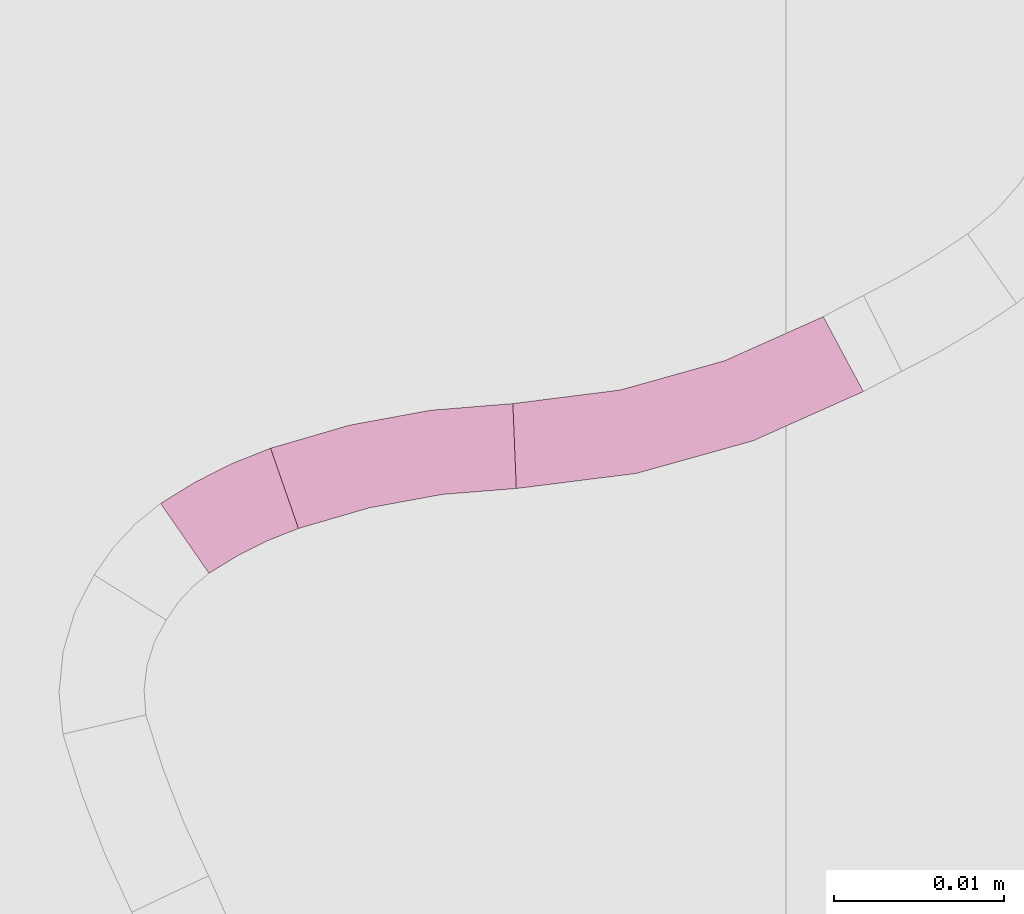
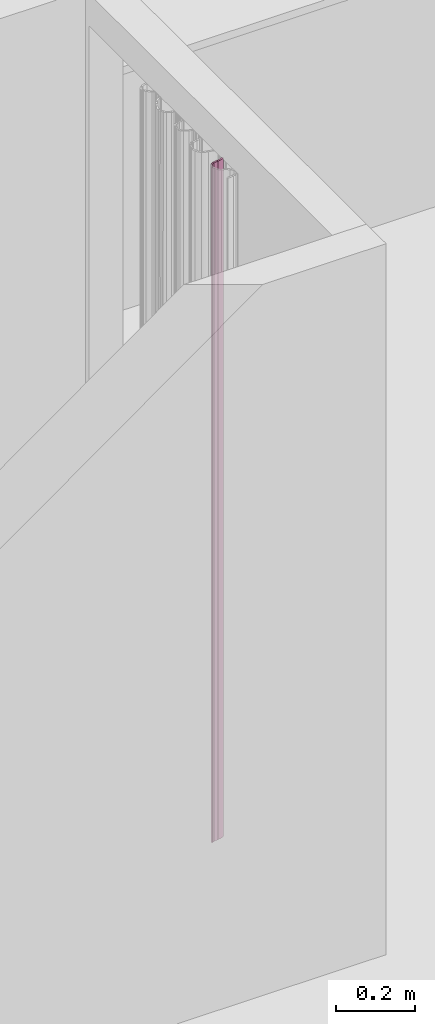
# One storey, part 289 of 418: 3 furnishings.
"""IFC2X3 building model written with IfcOpenShell, lengths in millimetres."""

from ifc_helpers import new_model, entity, si_unit, converted_unit, derived_unit, money_unit, point, direction, frame, frame_2d, origin_with_axes, place, context, subcontext, project, spatial, polyline, circle_curve, parameter, trimmed, segment, composite_curve, outline, extrude, material, type_object, element, save


model = new_model("IFC2X3")

# Units and contexts
model_context = context("Model", 3, precision=0.01, world=origin_with_axes(), true_north=direction((0.0, 1.0)))
body_context = subcontext(model_context, "Body", "Model", "MODEL_VIEW")
ifc_project = project(units=[si_unit("LENGTHUNIT", "METRE", prefix="MILLI"), si_unit("AREAUNIT", "SQUARE_METRE"), si_unit("VOLUMEUNIT", "CUBIC_METRE"), converted_unit("PLANEANGLEUNIT", "DEGREE", entity("IfcPlaneAngleMeasure", 0.0174532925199), si_unit("PLANEANGLEUNIT", "RADIAN"), dimensions=[0, 0, 0, 0, 0, 0, 0]), si_unit("SOLIDANGLEUNIT", "STERADIAN"), money_unit("EUR"), converted_unit("TIMEUNIT", "Year", entity("IfcTimeMeasure", 31556926.0), si_unit("TIMEUNIT", "SECOND"), dimensions=[0, 0, 1, 0, 0, 0, 0]), si_unit("MASSUNIT", "GRAM", prefix="KILO"), si_unit("THERMODYNAMICTEMPERATUREUNIT", "DEGREE_CELSIUS"), si_unit("LUMINOUSINTENSITYUNIT", "LUMEN"), si_unit("ENERGYUNIT", "JOULE", prefix="MEGA"), derived_unit("THERMALCONDUCTANCEUNIT", [(si_unit("POWERUNIT", "WATT"), 1), (si_unit("LENGTHUNIT", "METRE"), -1), (si_unit("THERMODYNAMICTEMPERATUREUNIT", "KELVIN"), -1)]), derived_unit("SPECIFICHEATCAPACITYUNIT", [(si_unit("ENERGYUNIT", "JOULE"), 1), (si_unit("MASSUNIT", "GRAM", prefix="KILO"), -1), (si_unit("THERMODYNAMICTEMPERATUREUNIT", "KELVIN"), -1)]), derived_unit("MASSDENSITYUNIT", [(si_unit("MASSUNIT", "GRAM", prefix="KILO"), 1), (si_unit("VOLUMEUNIT", "CUBIC_METRE"), -1)])], contexts=[model_context])

# Site, building, storey
site_placement = place(None, origin_with_axes())
site = spatial("IfcSite", under=ifc_project, at=site_placement, Name="Paldiski mnt 245/1, Tallinn, Harjumaa", CompositionType="COMPLEX")
building_placement = place(site_placement, origin_with_axes())
building = spatial("IfcBuilding", under=site, at=building_placement, Name="RKAS Hoone üldnimetus (kasutust iseloomustav) -> IFC Project Manager -> SOLIBRI", CompositionType="ELEMENT")
storey_placement = place(building_placement, origin_with_axes())
storey = spatial("IfcBuildingStorey", under=building, at=storey_placement, Name="Esimene korrus", CompositionType="ELEMENT", Elevation=0.0)

# Furnishings
ifc_material = material(Name="KON-00_GENEERILINE - KONSTRUKTSIOON")
furniture_type = type_object("IfcFurnitureType", Name="KON-00_GENEERILINE - KONSTRUKTSIOON 5", AssemblyPlace="NOTDEFINED")
furnishing_1_placement = place(storey_placement, frame((-44052.7183751, -2254.90243296, 0.0), z_axis=(0.0, 0.0, 1.0), x_axis=(-0.944471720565, -0.328592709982, 0.0)))
element("IfcFurnishingElement", 1, at=furnishing_1_placement, inside=storey, type_object=furniture_type, material=ifc_material, Name="SS-55", context=body_context, shape_type="SweptSolid", body=[
    extrude(outline(composite_curve([segment(trimmed(circle_curve(frame_2d((0.0, 27.7953443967), x_axis=(0.0, -1.0)), 27.7953443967), [point((-1.64845914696e-09, 0.0)), parameter(0.0)], [point((7.17907738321, 0.943118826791)), parameter(14.9682323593)], True, "CARTESIAN"), True, "CONTINUOUS"), segment(polyline([(7.17907738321, 0.943118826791), (5.84343457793, 5.76168835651)]), True, "CONTINUOUS"), segment(trimmed(circle_curve(frame_2d((0.0, 27.7953443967), x_axis=(5.2770137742e-05, -0.999999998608)), 22.7953443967), [point((5.84343457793, 5.76168835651)), parameter(14.8501750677)], [point((0.0012029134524, 5.00000003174)), parameter(0.0)], False, "CARTESIAN"), True, "CONTINUOUS"), segment(polyline([(0.0012029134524, 5.00000003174), (-1.64845914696e-09, 0.0)]), True, "CONTINUOUS")], self_intersect=False)), origin_with_axes(), (0.0, 0.0, 1.0), 2100.0),
])
furnishing_2_placement = place(storey_placement, frame((-44038.4663853, -2252.278624, 0.0), z_axis=(0.0, 0.0, 1.0), x_axis=(-0.999555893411, -0.0297995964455, 0.0)))
element("IfcFurnishingElement", 2, at=furnishing_2_placement, inside=storey, type_object=furniture_type, material=ifc_material, Name="SS-54", context=body_context, shape_type="SweptSolid", body=[
    extrude(outline(composite_curve([segment(trimmed(circle_curve(frame_2d((0.0, 47.7728168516), x_axis=(0.0, -1.0)), 47.7728168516), [point((0.0, 0.0)), parameter(0.0)], [point((14.3238488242, 2.1979401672)), parameter(17.4475501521)], True, "CARTESIAN"), True, "CONTINUOUS"), segment(polyline([(14.3238488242, 2.1979401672), (12.8234866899, 6.96752245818)]), True, "CONTINUOUS"), segment(trimmed(circle_curve(frame_2d((0.0, 47.7728168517), x_axis=(-0.00125492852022, -0.999999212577)), 42.7728168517), [point((12.8234866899, 6.96752245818)), parameter(17.5177686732)], [point((-0.0536768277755, 5.0000336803)), parameter(0.0)], False, "CARTESIAN"), True, "CONTINUOUS"), segment(polyline([(-0.0536768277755, 5.0000336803), (0.0, 0.0)]), True, "CONTINUOUS")], self_intersect=False)), origin_with_axes(), (0.0, 0.0, 1.0), 2100.0),
])
furnishing_3_placement = place(storey_placement, frame((-44038.4663853, -2252.278624, 0.0), z_axis=(0.0, 0.0, 1.0), x_axis=(0.998621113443, 0.052496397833, 0.0)))
element("IfcFurnishingElement", 3, at=furnishing_3_placement, inside=storey, type_object=furniture_type, material=ifc_material, Name="SS-53", context=body_context, shape_type="SweptSolid", body=[
    extrude(outline(composite_curve([segment(trimmed(circle_curve(frame_2d((0.0, 43.336140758), x_axis=(-0.00123945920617, -0.99999923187)), 48.336140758), [point((-0.0599106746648, -4.99996287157)), parameter(0.0)], [point((20.6307698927, -0.376029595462)), parameter(25.3368528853)], True, "CARTESIAN"), True, "CONTINUOUS"), segment(polyline([(20.6307698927, -0.376029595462), (18.5029127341, 4.14860044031)]), True, "CONTINUOUS"), segment(trimmed(circle_curve(frame_2d((0.0, 43.3361407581), x_axis=(0.0, -1.0)), 43.3361407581), [point((18.5029127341, 4.14860044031)), parameter(25.2749550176)], [point((0.0, 0.0)), parameter(0.0)], False, "CARTESIAN"), True, "CONTINUOUS"), segment(polyline([(0.0, 0.0), (-0.0599106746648, -4.99996287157)]), True, "CONTINUOUS")], self_intersect=False)), origin_with_axes(), (0.0, 0.0, 1.0), 2100.0),
])

save(model, "model.ifc")
